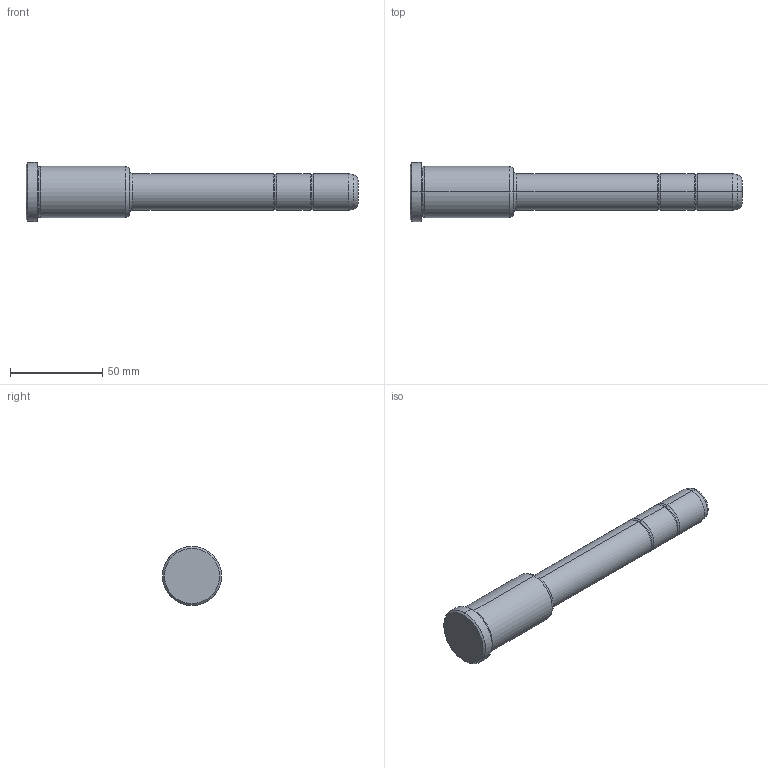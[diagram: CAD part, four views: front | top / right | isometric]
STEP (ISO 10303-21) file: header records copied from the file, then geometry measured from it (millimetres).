
FILE_DESCRIPTION(('CATIA V5 STEP Exchange'),'2;1');
FILE_NAME('C:\Users\Utente\Desktop\IO LAVORO\3D X SITO CF\X SITO\PLASTICA\351\351-20X56X180.stp','2021-08-27T12:45:42+00:00',('none'),('none'),'CATIA Version 5 Release 20 GA (IN-10)','CATIA V5 STEP AP203','none');
FILE_SCHEMA(('CONFIG_CONTROL_DESIGN'));
Length unit declared in the file: millimetre
Products named in the file (1): 351-20X56X180
Bounding box: 180 x 32 x 32 mm (x, y, z)
Volume: 74076.6 mm3; surface area: 14135.2 mm2
Topology: 1 solids, 1 shells, 36 faces, 102 edges, 70 vertices
Faces by surface type: torus 16, cylinder 10, cone 6, plane 4
Entity records: 1292 total; most frequent: CARTESIAN_POINT 321, ORIENTED_EDGE 204, DIRECTION 166, AXIS2_PLACEMENT_3D 115, EDGE_CURVE 102, CIRCLE 78, VERTEX_POINT 70, EDGE_LOOP 38
